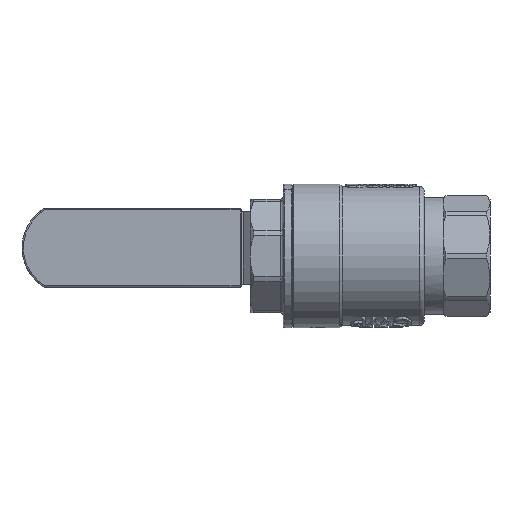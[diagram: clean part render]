
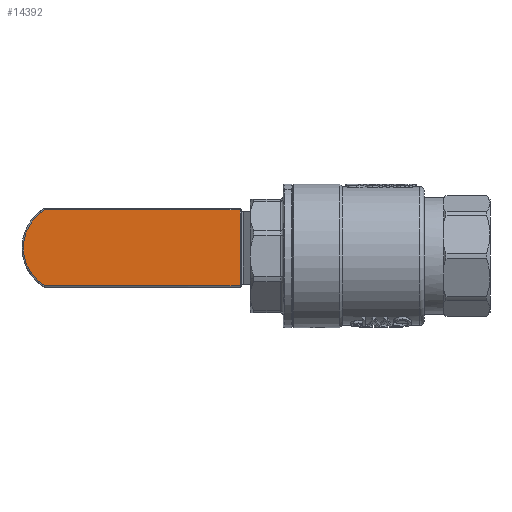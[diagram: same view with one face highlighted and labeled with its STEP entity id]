
A CAD part, front view. The second image highlights one B-rep face of the part: STEP entity #14392.
In plain terms, the highlighted planar face has unit normal (0, -1, 0).
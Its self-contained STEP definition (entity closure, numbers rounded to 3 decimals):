
#3296 = DIRECTION ( 'NONE',  ( -1., 0., 0. ) ) ;
#4719 = VECTOR ( 'NONE', #3296, 1000. ) ;
#7320 = DIRECTION ( 'NONE',  ( 0., 0., 1. ) ) ;
#7804 = EDGE_CURVE ( 'NONE', #16763, #39327, #53034, .T. ) ;
#11894 = CARTESIAN_POINT ( 'NONE',  ( 44.703, 21.4, 13.15 ) ) ;
#14392 = ADVANCED_FACE ( 'NONE', ( #30752 ), #83592, .F. ) ;
#16763 = VERTEX_POINT ( 'NONE', #42944 ) ;
#24477 = CIRCLE ( 'NONE', #108665, 15.5 ) ;
#25027 = CARTESIAN_POINT ( 'NONE',  ( 45.203, 21.4, 13.15 ) ) ;
#26024 = EDGE_LOOP ( 'NONE', ( #33091, #35970, #105619, #63075 ) ) ;
#30752 = FACE_OUTER_BOUND ( 'NONE', #26024, .T. ) ;
#32208 = VERTEX_POINT ( 'NONE', #94914 ) ;
#33091 = ORIENTED_EDGE ( 'NONE', *, *, #7804, .T. ) ;
#35970 = ORIENTED_EDGE ( 'NONE', *, *, #65416, .T. ) ;
#39327 = VERTEX_POINT ( 'NONE', #25027 ) ;
#41039 = LINE ( 'NONE', #62777, #118708 ) ;
#42944 = CARTESIAN_POINT ( 'NONE',  ( 113.205, 21.4, 13.15 ) ) ;
#50653 = CARTESIAN_POINT ( 'NONE',  ( 45.203, 21.4, 12.65 ) ) ;
#53034 = LINE ( 'NONE', #11894, #4719 ) ;
#54438 = CARTESIAN_POINT ( 'NONE',  ( 105., 21.4, 0. ) ) ;
#62777 = CARTESIAN_POINT ( 'NONE',  ( 44.703, 21.4, -13.15 ) ) ;
#63075 = ORIENTED_EDGE ( 'NONE', *, *, #102066, .T. ) ;
#63442 = DIRECTION ( 'NONE',  ( 0., -1., 0. ) ) ;
#65416 = EDGE_CURVE ( 'NONE', #39327, #118042, #67845, .T. ) ;
#67845 = LINE ( 'NONE', #50653, #86886 ) ;
#67900 = EDGE_CURVE ( 'NONE', #118042, #32208, #41039, .T. ) ;
#77882 = AXIS2_PLACEMENT_3D ( 'NONE', #83994, #82400, #110225 ) ;
#82400 = DIRECTION ( 'NONE',  ( 0., 1., 0. ) ) ;
#83592 = PLANE ( 'NONE',  #77882 ) ;
#83994 = CARTESIAN_POINT ( 'NONE',  ( 44.703, 21.4, 12.65 ) ) ;
#86886 = VECTOR ( 'NONE', #105499, 1000. ) ;
#91794 = DIRECTION ( 'NONE',  ( 1., 0., 0. ) ) ;
#94914 = CARTESIAN_POINT ( 'NONE',  ( 113.205, 21.4, -13.15 ) ) ;
#102066 = EDGE_CURVE ( 'NONE', #32208, #16763, #24477, .T. ) ;
#105499 = DIRECTION ( 'NONE',  ( 0., 0., -1. ) ) ;
#105619 = ORIENTED_EDGE ( 'NONE', *, *, #67900, .T. ) ;
#108665 = AXIS2_PLACEMENT_3D ( 'NONE', #54438, #63442, #7320 ) ;
#110225 = DIRECTION ( 'NONE',  ( 0., 0., 1. ) ) ;
#118042 = VERTEX_POINT ( 'NONE', #118786 ) ;
#118708 = VECTOR ( 'NONE', #91794, 1000. ) ;
#118786 = CARTESIAN_POINT ( 'NONE',  ( 45.203, 21.4, -13.15 ) ) ;
